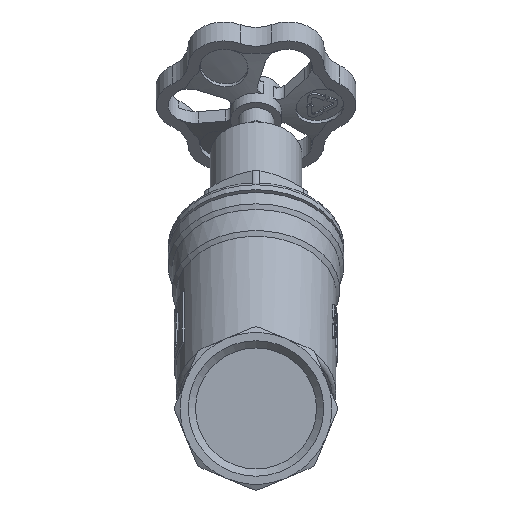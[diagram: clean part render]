
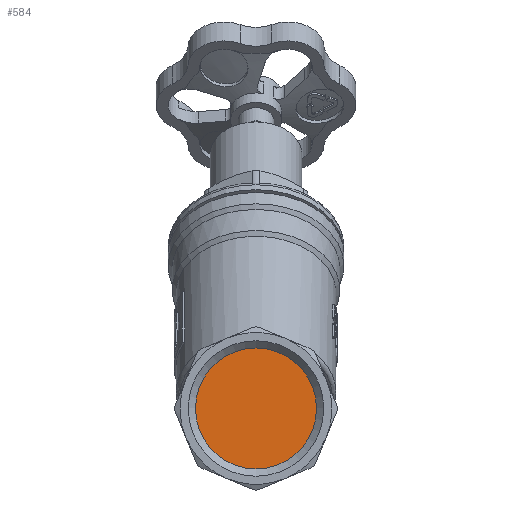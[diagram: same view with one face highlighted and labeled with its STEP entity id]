
A CAD part, front view. The second image highlights one B-rep face of the part: STEP entity #584.
In plain terms, the highlighted planar face has unit normal (0, -1, 0).
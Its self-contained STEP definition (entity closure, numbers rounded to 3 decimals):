
#584=ADVANCED_FACE('',(#4448),#4450,.T.);
#4448=FACE_BOUND('',#4449,.T.);
#4449=EDGE_LOOP('',(#7713));
#4450=PLANE('',#4451);
#4451=AXIS2_PLACEMENT_3D('',#4452,#4453,#4454);
#4452=CARTESIAN_POINT('',(0.,-12.5,0.));
#4453=DIRECTION('',(0.,-1.,0.));
#4454=DIRECTION('',(1.,0.,0.));
#7713=ORIENTED_EDGE('',*,*,#9146,.T.);
#9146=EDGE_CURVE('',#11545,#11545,#11546,.T.);
#11545=VERTEX_POINT('',#31381);
#11546=CIRCLE('',#31382,15.146);
#31381=CARTESIAN_POINT('',(15.146,-12.5,0.));
#31382=AXIS2_PLACEMENT_3D('',#31383,#31384,#31385);
#31383=CARTESIAN_POINT('',(0.,-12.5,0.));
#31384=DIRECTION('',(0.,-1.,0.));
#31385=DIRECTION('',(1.,0.,0.));
